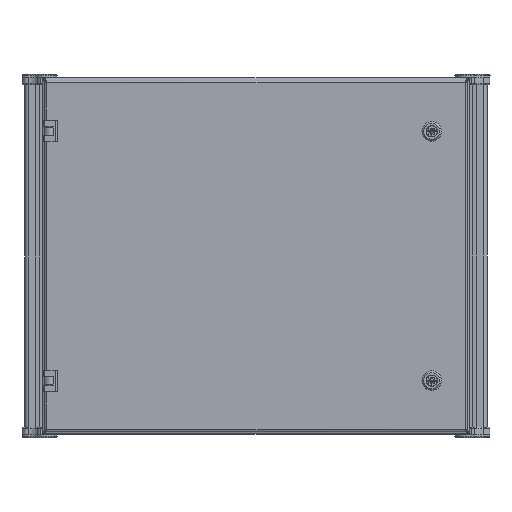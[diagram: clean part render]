
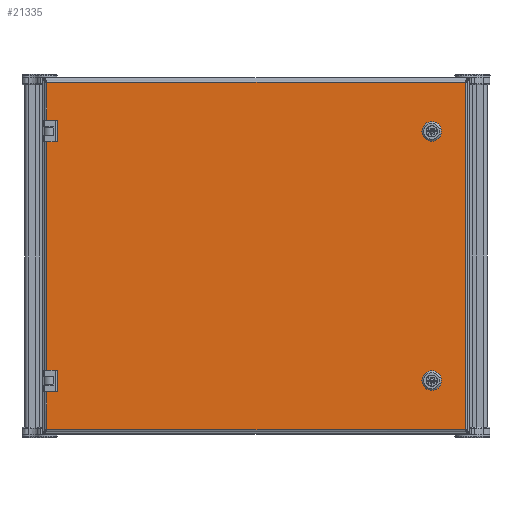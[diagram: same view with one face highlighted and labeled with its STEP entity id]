
A CAD part, front view. The second image highlights one B-rep face of the part: STEP entity #21335.
In plain terms, the highlighted planar face has unit normal (0, -1, 0).
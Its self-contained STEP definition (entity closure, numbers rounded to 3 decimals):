
#6457=ORIENTED_EDGE('',*,*,#10533,.F.);
#6458=ORIENTED_EDGE('',*,*,#10530,.F.);
#6459=ORIENTED_EDGE('',*,*,#10551,.F.);
#6460=ORIENTED_EDGE('',*,*,#10548,.F.);
#6461=ORIENTED_EDGE('',*,*,#10545,.F.);
#6462=ORIENTED_EDGE('',*,*,#10542,.F.);
#6463=ORIENTED_EDGE('',*,*,#10539,.F.);
#6464=ORIENTED_EDGE('',*,*,#10536,.F.);
#6465=ORIENTED_EDGE('',*,*,#10581,.F.);
#6466=ORIENTED_EDGE('',*,*,#10582,.F.);
#6467=ORIENTED_EDGE('',*,*,#10583,.F.);
#6468=ORIENTED_EDGE('',*,*,#10584,.F.);
#6469=ORIENTED_EDGE('',*,*,#10585,.F.);
#6470=ORIENTED_EDGE('',*,*,#10586,.F.);
#6471=ORIENTED_EDGE('',*,*,#10587,.F.);
#6472=ORIENTED_EDGE('',*,*,#10588,.F.);
#6473=ORIENTED_EDGE('',*,*,#10589,.T.);
#6474=ORIENTED_EDGE('',*,*,#10561,.T.);
#6475=ORIENTED_EDGE('',*,*,#10553,.T.);
#6476=ORIENTED_EDGE('',*,*,#10563,.T.);
#6477=ORIENTED_EDGE('',*,*,#10514,.T.);
#6478=ORIENTED_EDGE('',*,*,#10590,.T.);
#6479=ORIENTED_EDGE('',*,*,#10591,.T.);
#6480=ORIENTED_EDGE('',*,*,#10592,.T.);
#6481=ORIENTED_EDGE('',*,*,#10593,.T.);
#6482=ORIENTED_EDGE('',*,*,#10594,.T.);
#6483=ORIENTED_EDGE('',*,*,#10595,.F.);
#6484=ORIENTED_EDGE('',*,*,#10596,.T.);
#10514=EDGE_CURVE('',#12903,#12902,#14611,.T.);
#10530=EDGE_CURVE('',#12914,#12915,#14624,.T.);
#10533=EDGE_CURVE('',#12915,#12917,#14627,.T.);
#10536=EDGE_CURVE('',#12917,#12919,#14630,.T.);
#10539=EDGE_CURVE('',#12919,#12921,#14633,.T.);
#10542=EDGE_CURVE('',#12921,#12923,#14636,.T.);
#10545=EDGE_CURVE('',#12923,#12925,#14639,.T.);
#10548=EDGE_CURVE('',#12925,#12927,#14642,.T.);
#10551=EDGE_CURVE('',#12927,#12914,#14645,.T.);
#10553=EDGE_CURVE('',#12930,#12929,#14647,.T.);
#10561=EDGE_CURVE('',#12937,#12930,#14654,.T.);
#10563=EDGE_CURVE('',#12929,#12903,#14655,.T.);
#10581=EDGE_CURVE('',#12953,#12954,#14673,.T.);
#10582=EDGE_CURVE('',#12955,#12953,#14674,.T.);
#10583=EDGE_CURVE('',#12956,#12955,#14675,.T.);
#10584=EDGE_CURVE('',#12957,#12956,#14676,.T.);
#10585=EDGE_CURVE('',#12958,#12957,#14677,.T.);
#10586=EDGE_CURVE('',#12959,#12958,#14678,.T.);
#10587=EDGE_CURVE('',#12960,#12959,#14679,.T.);
#10588=EDGE_CURVE('',#12954,#12960,#14680,.T.);
#10589=EDGE_CURVE('',#12961,#12937,#14681,.T.);
#10590=EDGE_CURVE('',#12902,#12962,#14682,.T.);
#10591=EDGE_CURVE('',#12962,#12963,#14683,.T.);
#10592=EDGE_CURVE('',#12963,#12964,#14684,.T.);
#10593=EDGE_CURVE('',#12964,#12965,#14685,.T.);
#10594=EDGE_CURVE('',#12965,#12966,#14686,.T.);
#10595=EDGE_CURVE('',#12967,#12966,#14687,.T.);
#10596=EDGE_CURVE('',#12967,#12961,#14688,.T.);
#12902=VERTEX_POINT('',#37595);
#12903=VERTEX_POINT('',#37597);
#12914=VERTEX_POINT('',#37628);
#12915=VERTEX_POINT('',#37630);
#12917=VERTEX_POINT('',#37636);
#12919=VERTEX_POINT('',#37642);
#12921=VERTEX_POINT('',#37648);
#12923=VERTEX_POINT('',#37654);
#12925=VERTEX_POINT('',#37660);
#12927=VERTEX_POINT('',#37666);
#12929=VERTEX_POINT('',#37674);
#12930=VERTEX_POINT('',#37676);
#12937=VERTEX_POINT('',#37692);
#12953=VERTEX_POINT('',#37731);
#12954=VERTEX_POINT('',#37732);
#12955=VERTEX_POINT('',#37734);
#12956=VERTEX_POINT('',#37736);
#12957=VERTEX_POINT('',#37738);
#12958=VERTEX_POINT('',#37740);
#12959=VERTEX_POINT('',#37742);
#12960=VERTEX_POINT('',#37744);
#12961=VERTEX_POINT('',#37747);
#12962=VERTEX_POINT('',#37749);
#12963=VERTEX_POINT('',#37751);
#12964=VERTEX_POINT('',#37753);
#12965=VERTEX_POINT('',#37755);
#12966=VERTEX_POINT('',#37757);
#12967=VERTEX_POINT('',#37759);
#14611=LINE('',#37596,#16311);
#14624=LINE('',#37629,#16324);
#14627=LINE('',#37635,#16327);
#14630=LINE('',#37641,#16330);
#14633=LINE('',#37647,#16333);
#14636=LINE('',#37653,#16336);
#14639=LINE('',#37659,#16339);
#14642=LINE('',#37665,#16342);
#14645=LINE('',#37670,#16345);
#14647=LINE('',#37675,#16347);
#14654=LINE('',#37691,#16354);
#14655=LINE('',#37695,#16355);
#14673=LINE('',#37730,#16373);
#14674=LINE('',#37733,#16374);
#14675=LINE('',#37735,#16375);
#14676=LINE('',#37737,#16376);
#14677=LINE('',#37739,#16377);
#14678=LINE('',#37741,#16378);
#14679=LINE('',#37743,#16379);
#14680=LINE('',#37745,#16380);
#14681=LINE('',#37746,#16381);
#14682=LINE('',#37748,#16382);
#14683=LINE('',#37750,#16383);
#14684=LINE('',#37752,#16384);
#14685=LINE('',#37754,#16385);
#14686=LINE('',#37756,#16386);
#14687=LINE('',#37758,#16387);
#14688=LINE('',#37760,#16388);
#16311=VECTOR('',#28033,1000.);
#16324=VECTOR('',#28062,1000.);
#16327=VECTOR('',#28067,1000.);
#16330=VECTOR('',#28072,1000.);
#16333=VECTOR('',#28077,1000.);
#16336=VECTOR('',#28082,1000.);
#16339=VECTOR('',#28087,1000.);
#16342=VECTOR('',#28092,1000.);
#16345=VECTOR('',#28097,1000.);
#16347=VECTOR('',#28101,1000.);
#16354=VECTOR('',#28112,1000.);
#16355=VECTOR('',#28117,1000.);
#16373=VECTOR('',#28139,1000.);
#16374=VECTOR('',#28140,1000.);
#16375=VECTOR('',#28141,1000.);
#16376=VECTOR('',#28142,1000.);
#16377=VECTOR('',#28143,1000.);
#16378=VECTOR('',#28144,1000.);
#16379=VECTOR('',#28145,1000.);
#16380=VECTOR('',#28146,1000.);
#16381=VECTOR('',#28147,1000.);
#16382=VECTOR('',#28148,1000.);
#16383=VECTOR('',#28149,1000.);
#16384=VECTOR('',#28150,1000.);
#16385=VECTOR('',#28151,1000.);
#16386=VECTOR('',#28152,1000.);
#16387=VECTOR('',#28153,1000.);
#16388=VECTOR('',#28154,1000.);
#18038=EDGE_LOOP('',(#6457,#6458,#6459,#6460,#6461,#6462,#6463,#6464));
#18039=EDGE_LOOP('',(#6465,#6466,#6467,#6468,#6469,#6470,#6471,#6472));
#18040=EDGE_LOOP('',(#6473,#6474,#6475,#6476,#6477,#6478,#6479,#6480,#6481,
#6482,#6483,#6484));
#19528=FACE_BOUND('',#18038,.T.);
#19529=FACE_BOUND('',#18039,.T.);
#19530=FACE_BOUND('',#18040,.T.);
#20339=PLANE('',#23831);
#21335=ADVANCED_FACE('',(#19528,#19529,#19530),#20339,.F.);
#23831=AXIS2_PLACEMENT_3D('',#37729,#28137,#28138);
#28033=DIRECTION('',(0.,0.,-1.));
#28062=DIRECTION('',(-1.,0.,0.));
#28067=DIRECTION('',(-0.707,0.,-0.707));
#28072=DIRECTION('',(0.,0.,-1.));
#28077=DIRECTION('',(0.707,0.,-0.707));
#28082=DIRECTION('',(1.,0.,0.));
#28087=DIRECTION('',(0.707,0.,0.707));
#28092=DIRECTION('',(0.,0.,1.));
#28097=DIRECTION('',(-0.707,0.,0.707));
#28101=DIRECTION('',(0.,0.,-1.));
#28112=DIRECTION('',(1.,0.,0.));
#28117=DIRECTION('',(-1.,0.,0.));
#28137=DIRECTION('',(0.,1.,0.));
#28138=DIRECTION('',(0.,0.,1.));
#28139=DIRECTION('',(-0.707,0.,-0.707));
#28140=DIRECTION('',(-1.,0.,0.));
#28141=DIRECTION('',(-0.707,0.,0.707));
#28142=DIRECTION('',(0.,0.,1.));
#28143=DIRECTION('',(0.707,0.,0.707));
#28144=DIRECTION('',(1.,0.,0.));
#28145=DIRECTION('',(0.707,0.,-0.707));
#28146=DIRECTION('',(0.,0.,-1.));
#28147=DIRECTION('',(0.,0.,-1.));
#28148=DIRECTION('',(1.,0.,0.));
#28149=DIRECTION('',(0.,0.,-1.));
#28150=DIRECTION('',(-1.,0.,0.));
#28151=DIRECTION('',(0.,0.,-1.));
#28152=DIRECTION('',(1.,0.,0.));
#28153=DIRECTION('',(0.,0.,-1.));
#28154=DIRECTION('',(-1.,0.,0.));
#37595=CARTESIAN_POINT('',(-298.539,0.,-167.767));
#37596=CARTESIAN_POINT('',(-298.539,0.,-250.825));
#37597=CARTESIAN_POINT('',(-298.539,0.,167.767));
#37628=CARTESIAN_POINT('',(256.692,0.,187.846));
#37629=CARTESIAN_POINT('',(256.692,0.,187.846));
#37630=CARTESIAN_POINT('',(244.958,0.,187.846));
#37635=CARTESIAN_POINT('',(244.958,0.,187.846));
#37636=CARTESIAN_POINT('',(240.779,0.,183.667));
#37641=CARTESIAN_POINT('',(240.779,0.,183.667));
#37642=CARTESIAN_POINT('',(240.779,0.,171.933));
#37647=CARTESIAN_POINT('',(240.779,0.,171.933));
#37648=CARTESIAN_POINT('',(244.958,0.,167.754));
#37653=CARTESIAN_POINT('',(244.958,0.,167.754));
#37654=CARTESIAN_POINT('',(256.692,0.,167.754));
#37659=CARTESIAN_POINT('',(260.871,0.,171.933));
#37660=CARTESIAN_POINT('',(260.871,0.,171.933));
#37665=CARTESIAN_POINT('',(260.871,0.,171.933));
#37666=CARTESIAN_POINT('',(260.871,0.,183.667));
#37670=CARTESIAN_POINT('',(256.692,0.,187.846));
#37674=CARTESIAN_POINT('',(-287.35,0.,167.767));
#37675=CARTESIAN_POINT('',(-287.35,0.,187.833));
#37676=CARTESIAN_POINT('',(-287.35,0.,187.833));
#37691=CARTESIAN_POINT('',(-301.625,0.,187.833));
#37692=CARTESIAN_POINT('',(-298.539,0.,187.833));
#37695=CARTESIAN_POINT('',(-287.35,0.,167.767));
#37729=CARTESIAN_POINT('',(0.,0.,0.));
#37730=CARTESIAN_POINT('',(244.958,0.,-167.754));
#37731=CARTESIAN_POINT('',(244.958,0.,-167.754));
#37732=CARTESIAN_POINT('',(240.779,0.,-171.933));
#37733=CARTESIAN_POINT('',(256.692,0.,-167.754));
#37734=CARTESIAN_POINT('',(256.692,0.,-167.754));
#37735=CARTESIAN_POINT('',(256.692,0.,-167.754));
#37736=CARTESIAN_POINT('',(260.871,0.,-171.933));
#37737=CARTESIAN_POINT('',(260.871,0.,-183.667));
#37738=CARTESIAN_POINT('',(260.871,0.,-183.667));
#37739=CARTESIAN_POINT('',(260.871,0.,-183.667));
#37740=CARTESIAN_POINT('',(256.692,0.,-187.846));
#37741=CARTESIAN_POINT('',(244.958,0.,-187.846));
#37742=CARTESIAN_POINT('',(244.958,0.,-187.846));
#37743=CARTESIAN_POINT('',(240.779,0.,-183.667));
#37744=CARTESIAN_POINT('',(240.779,0.,-183.667));
#37745=CARTESIAN_POINT('',(240.779,0.,-171.933));
#37746=CARTESIAN_POINT('',(-298.539,0.,-250.825));
#37747=CARTESIAN_POINT('',(-298.539,0.,247.739));
#37748=CARTESIAN_POINT('',(-301.625,0.,-167.767));
#37749=CARTESIAN_POINT('',(-287.35,0.,-167.767));
#37750=CARTESIAN_POINT('',(-287.35,0.,-167.767));
#37751=CARTESIAN_POINT('',(-287.35,0.,-187.833));
#37752=CARTESIAN_POINT('',(-287.35,0.,-187.833));
#37753=CARTESIAN_POINT('',(-298.539,0.,-187.833));
#37754=CARTESIAN_POINT('',(-298.539,0.,-250.825));
#37755=CARTESIAN_POINT('',(-298.539,0.,-247.739));
#37756=CARTESIAN_POINT('',(298.539,0.,-247.739));
#37757=CARTESIAN_POINT('',(298.539,0.,-247.739));
#37758=CARTESIAN_POINT('',(298.539,0.,247.739));
#37759=CARTESIAN_POINT('',(298.539,0.,247.739));
#37760=CARTESIAN_POINT('',(-301.625,0.,247.739));
